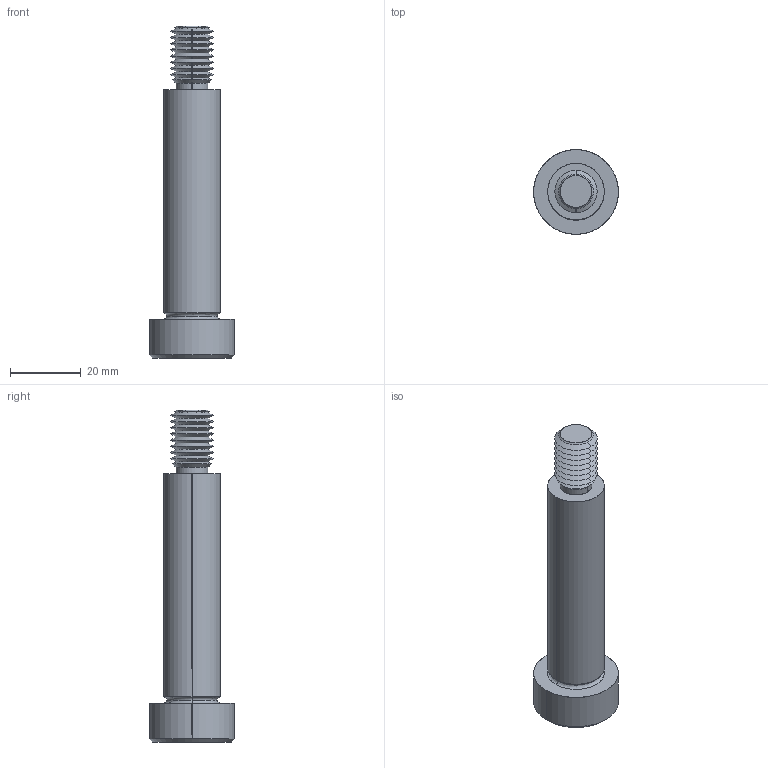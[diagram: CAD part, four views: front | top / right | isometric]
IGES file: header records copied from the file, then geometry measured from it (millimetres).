
Start section: SolidWorks IGES file using analytic representation for surfaces
Global section: file name: C:\Users\IanO\Documents\Temp Folder\GENERAL\SCREW REVISION\P0130_v2\P0130.T5_v2_20220106_IGES\P0130.160-065-T5.igs; native system: SolidWorks 2019; preprocessor: SolidWorks 2019; author: IanO; date: 220106.225616; units: millimetre
Bounding box: 24 x 24 x 94 mm (x, y, z)
Surface area: 6313.8 mm2 (no closed solid volume)
Topology: 0 solids, 0 shells, 76 faces, 588 edges, 586 vertices
Faces by surface type: revolution 56, bspline 20
